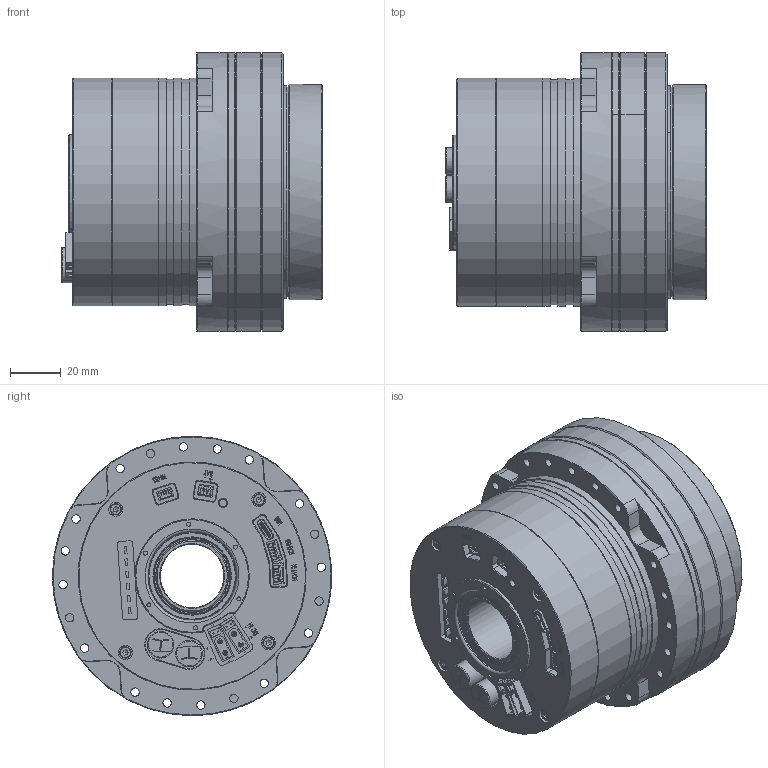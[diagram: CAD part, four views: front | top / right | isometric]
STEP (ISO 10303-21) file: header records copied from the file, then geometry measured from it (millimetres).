
FILE_DESCRIPTION( ('This file contains a STEP AP42 implementation' ,'as created by ZW3D STEP Interface translator.') ,'2;1' );
FILE_NAME( 'HJ2-110F101D24-BK-EC1.stp' ,'2512 5.14 620', (''), ('ZWCAD Software Co.'), 'Version 1.0', 'ZW3D to STEP translator', '' );
FILE_SCHEMA(('AUTOMOTIVE_DESIGN { 1 0 10303 214 1 1 1 1 }'));
Length unit declared in the file: millimetre
Products named in the file (1): 0
Bounding box: 102.82 x 109.87 x 109.99 mm (x, y, z)
Volume: 655795 mm3; surface area: 92422.2 mm2
Topology: 28 solids, 57 shells, 4069 faces, 10710 edges, 6985 vertices
Faces by surface type: plane 3301, cylinder 460, cone 168, torus 58, bspline 58, sphere 24
Full cylindrical faces by diameter (mm): 1.6 x6, 2.5 x12, 2.7 x4, 3 x9, 3.3 x20, 3.5 x12, 4 x5, 4.5 x44, 5.5 x9, 6 x20, 10.5 x2, 25 x1, 28.6 x1, 30.668 x2, 30.89 x1, 32.282 x1, 34.718 x1, 35 x1, 36.332 x2, 37 x1, 65 x1, 85 x1, 87 x3, 89 x2, 90 x5, 94.6 x2, 110 x2
Entity records: 129562 total; most frequent: CARTESIAN_POINT 23430, ORIENTED_EDGE 21494, DIRECTION 20036, EDGE_CURVE 10741, VECTOR 9082, LINE 9082, VERTEX_POINT 7041, AXIS2_PLACEMENT_3D 5477
